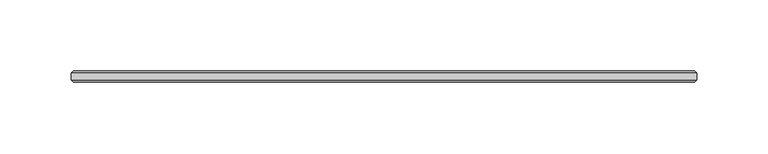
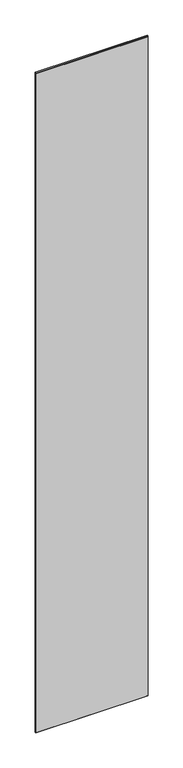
"""IFC4 building model written with IfcOpenShell, lengths in millimetres: plate geometry, 1-AMG-1-Панель одинарный витраж 8, 10 : Смещение 32 Толщина 8mm."""

from ifc_helpers import new_model, si_unit, origin, place, context, project, spatial, faceted_brep, source, transform, mapped, element, save


def plate_fd8922d6(model_context):
    return source(origin(), model_context, "Body", "Brep", [
        faceted_brep([(220.0, -29.5038347, 2722.8), (-220.0, -29.5038347, 2722.8), (-220.0, -34.4961653, 2722.8), (220.0, -34.4961653, 2722.8), (220.0, -34.5039422, -7.0), (-220.0, -34.5039422, -7.0), (-220.0, -29.5038347, -7.0), (220.0, -29.5038347, -7.0), (-218.4961653, -36.0, 2721.2961653), (-218.4961653, -36.0, -5.5039422), (218.4961653, -36.0, -5.5039422), (218.4961653, -36.0, 2721.2961653), (218.4961653, -28.0, 2721.2961653), (218.4961653, -28.0, -5.4961653), (-218.4961653, -28.0, -5.4961653), (-218.4961653, -28.0, 2721.2961653)], [[[0, 1, 2, 3]], [[4, 5, 6, 7]], [[8, 9, 10, 11]], [[1, 6, 5, 2]], [[12, 13, 14, 15]], [[3, 4, 7, 0]], [[3, 11, 10, 4]], [[7, 13, 12, 0]], [[5, 9, 8, 2]], [[1, 15, 14, 6]], [[0, 12, 15, 1]], [[2, 8, 11, 3]], [[6, 14, 13, 7]], [[4, 10, 9, 5]]]),
    ])


if __name__ == "__main__":
    model = new_model("IFC4")
    model_context = context("Model", 3, world=origin())
    ifc_project = project(units=[si_unit("LENGTHUNIT", "METRE", prefix="MILLI")], contexts=[model_context])
    site = spatial("IfcSite", under=ifc_project)
    building = spatial("IfcBuilding", under=site)
    placement = place(None, origin())
    plate_shape = plate_fd8922d6(model_context)
    element("IfcPlate", 1, ObjectType="1-AMG-1-Панель одинарный витраж 8, 10 : Смещение 32 Толщина 8mm", at=placement, inside=building, context=model_context, shape_type="MappedRepresentation", body=[
        mapped(plate_shape, transform((0.0, 0.0, 0.0), x_axis=(1.0, 0.0, 0.0), y_axis=(0.0, 1.0, 0.0), z_axis=(0.0, 0.0, 1.0))),
    ])
    save(model, "model.ifc")
